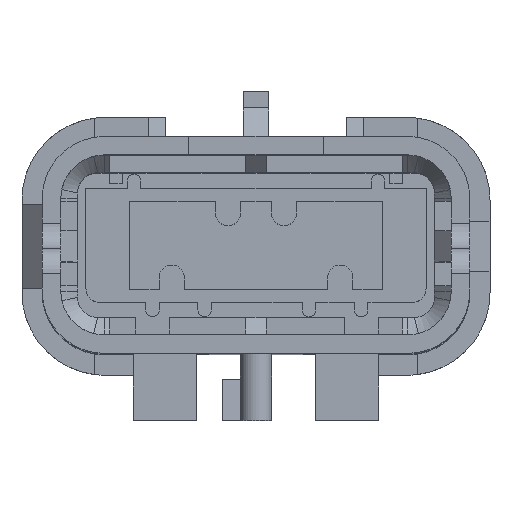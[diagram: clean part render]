
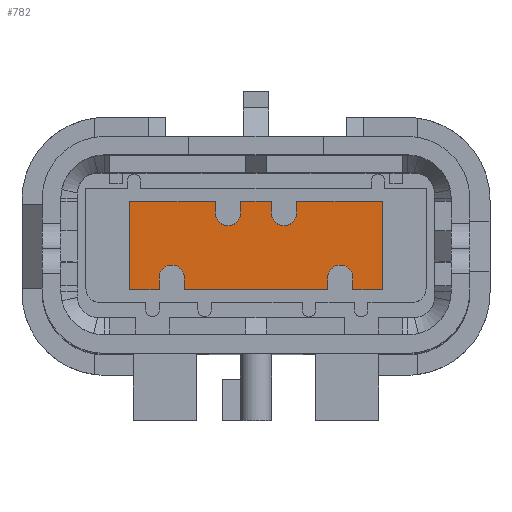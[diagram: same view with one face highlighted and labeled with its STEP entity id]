
A CAD part, top view. The second image highlights one B-rep face of the part: STEP entity #782.
In plain terms, the highlighted planar face has unit normal (0, 0, 1).
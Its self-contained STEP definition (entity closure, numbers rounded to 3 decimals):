
#393=CIRCLE('',#9367,0.75);
#395=CIRCLE('',#9375,0.75);
#397=CIRCLE('',#9381,0.75);
#399=CIRCLE('',#9389,0.75);
#782=ADVANCED_FACE('',(#1569),#1164,.T.);
#1164=PLANE('',#9425);
#1569=FACE_OUTER_BOUND('',#2027,.T.);
#2027=EDGE_LOOP('',(#3994,#3995,#3996,#3997,#3998,#3999,#4000,#4001,#4002,
#4003,#4004,#4005,#4006,#4007,#4008,#4009,#4010,#4011,#4012,#4013));
#3994=ORIENTED_EDGE('',*,*,#6469,.T.);
#3995=ORIENTED_EDGE('',*,*,#6471,.T.);
#3996=ORIENTED_EDGE('',*,*,#6476,.T.);
#3997=ORIENTED_EDGE('',*,*,#6479,.F.);
#3998=ORIENTED_EDGE('',*,*,#6482,.F.);
#3999=ORIENTED_EDGE('',*,*,#6485,.T.);
#4000=ORIENTED_EDGE('',*,*,#6488,.T.);
#4001=ORIENTED_EDGE('',*,*,#6491,.F.);
#4002=ORIENTED_EDGE('',*,*,#6494,.F.);
#4003=ORIENTED_EDGE('',*,*,#6497,.T.);
#4004=ORIENTED_EDGE('',*,*,#6498,.T.);
#4005=ORIENTED_EDGE('',*,*,#6501,.F.);
#4006=ORIENTED_EDGE('',*,*,#6506,.T.);
#4007=ORIENTED_EDGE('',*,*,#6509,.F.);
#4008=ORIENTED_EDGE('',*,*,#6511,.F.);
#4009=ORIENTED_EDGE('',*,*,#6454,.F.);
#4010=ORIENTED_EDGE('',*,*,#6458,.T.);
#4011=ORIENTED_EDGE('',*,*,#6461,.F.);
#4012=ORIENTED_EDGE('',*,*,#6464,.F.);
#4013=ORIENTED_EDGE('',*,*,#6467,.F.);
#5338=VERTEX_POINT('',#14395);
#5339=VERTEX_POINT('',#14397);
#5341=VERTEX_POINT('',#14403);
#5343=VERTEX_POINT('',#14409);
#5345=VERTEX_POINT('',#14415);
#5347=VERTEX_POINT('',#14421);
#5348=VERTEX_POINT('',#14425);
#5350=VERTEX_POINT('',#14431);
#5353=VERTEX_POINT('',#14439);
#5355=VERTEX_POINT('',#14445);
#5357=VERTEX_POINT('',#14451);
#5359=VERTEX_POINT('',#14457);
#5361=VERTEX_POINT('',#14463);
#5363=VERTEX_POINT('',#14469);
#5365=VERTEX_POINT('',#14475);
#5367=VERTEX_POINT('',#14481);
#5368=VERTEX_POINT('',#14485);
#5370=VERTEX_POINT('',#14491);
#5373=VERTEX_POINT('',#14499);
#5375=VERTEX_POINT('',#14505);
#6454=EDGE_CURVE('',#5338,#5339,#7603,.T.);
#6458=EDGE_CURVE('',#5338,#5341,#7607,.T.);
#6461=EDGE_CURVE('',#5343,#5341,#393,.T.);
#6464=EDGE_CURVE('',#5345,#5343,#7611,.T.);
#6467=EDGE_CURVE('',#5347,#5345,#7614,.T.);
#6469=EDGE_CURVE('',#5347,#5348,#7616,.T.);
#6471=EDGE_CURVE('',#5348,#5350,#7618,.T.);
#6476=EDGE_CURVE('',#5350,#5353,#7623,.T.);
#6479=EDGE_CURVE('',#5355,#5353,#395,.T.);
#6482=EDGE_CURVE('',#5357,#5355,#7627,.T.);
#6485=EDGE_CURVE('',#5357,#5359,#7630,.T.);
#6488=EDGE_CURVE('',#5359,#5361,#7633,.T.);
#6491=EDGE_CURVE('',#5363,#5361,#397,.T.);
#6494=EDGE_CURVE('',#5365,#5363,#7637,.T.);
#6497=EDGE_CURVE('',#5365,#5367,#7640,.T.);
#6498=EDGE_CURVE('',#5367,#5368,#7641,.T.);
#6501=EDGE_CURVE('',#5370,#5368,#7644,.T.);
#6506=EDGE_CURVE('',#5370,#5373,#7649,.T.);
#6509=EDGE_CURVE('',#5375,#5373,#399,.T.);
#6511=EDGE_CURVE('',#5339,#5375,#7652,.T.);
#7603=LINE('',#14396,#8655);
#7607=LINE('',#14404,#8659);
#7611=LINE('',#14416,#8663);
#7614=LINE('',#14422,#8666);
#7616=LINE('',#14427,#8668);
#7618=LINE('',#14430,#8670);
#7623=LINE('',#14440,#8675);
#7627=LINE('',#14452,#8679);
#7630=LINE('',#14458,#8682);
#7633=LINE('',#14464,#8685);
#7637=LINE('',#14476,#8689);
#7640=LINE('',#14482,#8692);
#7641=LINE('',#14484,#8693);
#7644=LINE('',#14490,#8696);
#7649=LINE('',#14500,#8701);
#7652=LINE('',#14509,#8704);
#8655=VECTOR('',#11120,1.);
#8659=VECTOR('',#11126,1.);
#8663=VECTOR('',#11138,1.);
#8666=VECTOR('',#11143,1.);
#8668=VECTOR('',#11147,1.);
#8670=VECTOR('',#11151,1.);
#8675=VECTOR('',#11158,1.);
#8679=VECTOR('',#11170,1.);
#8682=VECTOR('',#11175,1.);
#8685=VECTOR('',#11180,1.);
#8689=VECTOR('',#11192,1.);
#8692=VECTOR('',#11197,1.);
#8693=VECTOR('',#11200,1.);
#8696=VECTOR('',#11205,1.);
#8701=VECTOR('',#11212,1.);
#8704=VECTOR('',#11223,1.);
#9367=AXIS2_PLACEMENT_3D('',#14410,#11132,#11133);
#9375=AXIS2_PLACEMENT_3D('',#14446,#11164,#11165);
#9381=AXIS2_PLACEMENT_3D('',#14470,#11186,#11187);
#9389=AXIS2_PLACEMENT_3D('',#14506,#11218,#11219);
#9425=AXIS2_PLACEMENT_3D('',#14588,#11322,#11323);
#11120=DIRECTION('',(-1.,0.,0.));
#11126=DIRECTION('',(0.,1.,0.));
#11132=DIRECTION('',(0.,0.,1.));
#11133=DIRECTION('',(1.,0.,0.));
#11138=DIRECTION('',(0.,1.,0.));
#11143=DIRECTION('',(-1.,0.,0.));
#11147=DIRECTION('',(0.,1.,0.));
#11151=DIRECTION('',(-1.,0.,0.));
#11158=DIRECTION('',(0.,-1.,0.));
#11164=DIRECTION('',(0.,0.,1.));
#11165=DIRECTION('',(-1.,0.,0.));
#11170=DIRECTION('',(0.,-1.,0.));
#11175=DIRECTION('',(-1.,0.,0.));
#11180=DIRECTION('',(0.,-1.,0.));
#11186=DIRECTION('',(0.,0.,1.));
#11187=DIRECTION('',(-1.,0.,0.));
#11192=DIRECTION('',(0.,-1.,0.));
#11197=DIRECTION('',(-1.,0.,0.));
#11200=DIRECTION('',(0.,-1.,0.));
#11205=DIRECTION('',(-1.,0.,0.));
#11212=DIRECTION('',(0.,1.,0.));
#11218=DIRECTION('',(0.,0.,1.));
#11219=DIRECTION('',(1.,0.,0.));
#11223=DIRECTION('',(0.,1.,0.));
#11322=DIRECTION('',(0.,0.,1.));
#11323=DIRECTION('',(1.,0.,0.));
#14395=CARTESIAN_POINT('',(4.25,-2.625,1.1));
#14396=CARTESIAN_POINT('',(4.25,-2.625,1.1));
#14397=CARTESIAN_POINT('',(-4.25,-2.625,1.1));
#14403=CARTESIAN_POINT('',(4.25,-1.925,1.1));
#14404=CARTESIAN_POINT('',(4.25,-2.625,1.1));
#14409=CARTESIAN_POINT('',(5.75,-1.925,1.1));
#14410=CARTESIAN_POINT('',(5.,-1.925,1.1));
#14415=CARTESIAN_POINT('',(5.75,-2.625,1.1));
#14416=CARTESIAN_POINT('',(5.75,-2.625,1.1));
#14421=CARTESIAN_POINT('',(7.51,-2.625,1.1));
#14422=CARTESIAN_POINT('',(7.51,-2.625,1.1));
#14425=CARTESIAN_POINT('',(7.51,2.625,1.1));
#14427=CARTESIAN_POINT('',(7.51,-2.625,1.1));
#14430=CARTESIAN_POINT('',(7.51,2.625,1.1));
#14431=CARTESIAN_POINT('',(2.415,2.625,1.1));
#14439=CARTESIAN_POINT('',(2.415,1.925,1.1));
#14440=CARTESIAN_POINT('',(2.415,2.625,1.1));
#14445=CARTESIAN_POINT('',(0.915,1.925,1.1));
#14446=CARTESIAN_POINT('',(1.665,1.925,1.1));
#14451=CARTESIAN_POINT('',(0.915,2.625,1.1));
#14452=CARTESIAN_POINT('',(0.915,2.625,1.1));
#14457=CARTESIAN_POINT('',(-0.915,2.625,1.1));
#14458=CARTESIAN_POINT('',(0.915,2.625,1.1));
#14463=CARTESIAN_POINT('',(-0.915,1.925,1.1));
#14464=CARTESIAN_POINT('',(-0.915,2.625,1.1));
#14469=CARTESIAN_POINT('',(-2.415,1.925,1.1));
#14470=CARTESIAN_POINT('',(-1.665,1.925,1.1));
#14475=CARTESIAN_POINT('',(-2.415,2.625,1.1));
#14476=CARTESIAN_POINT('',(-2.415,2.625,1.1));
#14481=CARTESIAN_POINT('',(-7.51,2.625,1.1));
#14482=CARTESIAN_POINT('',(-2.415,2.625,1.1));
#14484=CARTESIAN_POINT('',(-7.51,-0.5,1.1));
#14485=CARTESIAN_POINT('',(-7.51,-2.625,1.1));
#14490=CARTESIAN_POINT('',(-5.75,-2.625,1.1));
#14491=CARTESIAN_POINT('',(-5.75,-2.625,1.1));
#14499=CARTESIAN_POINT('',(-5.75,-1.925,1.1));
#14500=CARTESIAN_POINT('',(-5.75,-2.625,1.1));
#14505=CARTESIAN_POINT('',(-4.25,-1.925,1.1));
#14506=CARTESIAN_POINT('',(-5.,-1.925,1.1));
#14509=CARTESIAN_POINT('',(-4.25,-2.625,1.1));
#14588=CARTESIAN_POINT('',(-9.012,-3.15,1.1));
